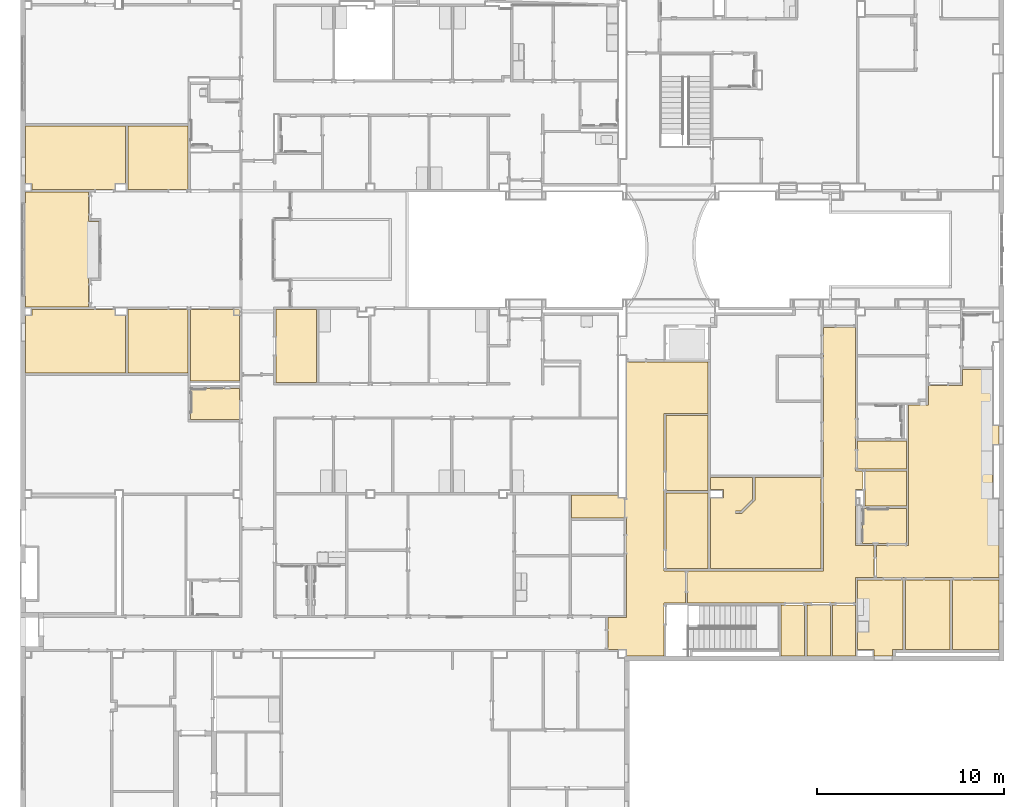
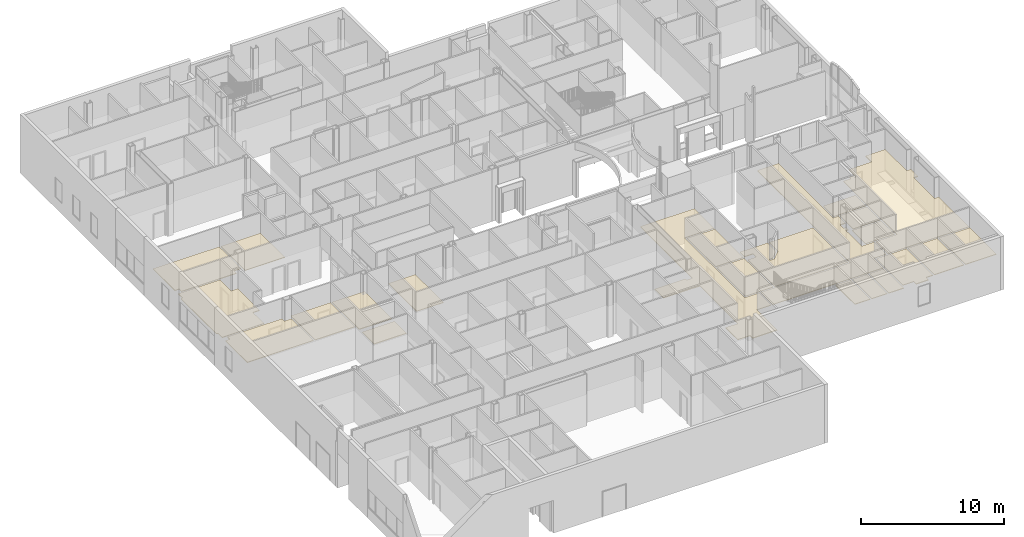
# One storey, part 50 of 87: 23 coverings.
"""IFC2X3 building model written with IfcOpenShell, lengths in metres."""

from ifc_helpers import new_model, entity, si_unit, converted_unit, origin, place, context, project, spatial, face_set, surface_model, material, layer, layer_set, layer_usage, element, save


model = new_model("IFC2X3")

# Units and contexts
model_context = context("Model", 3, precision=1e-09, world=origin())
plan_context = context("Plan", 3, precision=1e-09, world=origin())
ifc_project = project(units=[si_unit("LENGTHUNIT", "METRE"), si_unit("AREAUNIT", "SQUARE_METRE"), si_unit("VOLUMEUNIT", "CUBIC_METRE"), converted_unit("PLANEANGLEUNIT", "DEGREE", entity("IfcRatioMeasure", 0.01745329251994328), si_unit("PLANEANGLEUNIT", "RADIAN"), dimensions=[0, 0, 0, 0, 0, 0, 0]), si_unit("TIMEUNIT", "SECOND")], contexts=[model_context, plan_context])

# Site, building, storey
site_placement = place(None, origin())
site = spatial("IfcSite", under=ifc_project, at=site_placement, Name="Default", CompositionType="ELEMENT")
building_placement = place(site_placement, origin())
building = spatial("IfcBuilding", under=site, at=building_placement, CompositionType="ELEMENT")
storey_placement = place(building_placement, origin())
storey = spatial("IfcBuildingStorey", under=building, at=storey_placement, Name="First Floor", CompositionType="ELEMENT", Elevation=-3.531500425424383e-13)

# Coverings
ifc_material_1 = material(Name="Default")
ifc_layer_1 = layer(ifc_material_1, 0.03599999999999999)
ifc_material_2 = material(Name="Ceiling Tile 600 x 600")
ifc_layer_2 = layer(ifc_material_2, 0.016)
ifc_layer_set = layer_set([ifc_layer_1, ifc_layer_2], Name="Compound Ceiling:ACT 600 x 600mm Grid")
ifc_layer_usage_1 = layer_usage(ifc_layer_set, "AXIS3", "NEGATIVE", 0.0)
covering_1_placement = place(storey_placement, origin())
element("IfcCovering", 1, at=covering_1_placement, inside=storey, material=ifc_layer_usage_1, Name="Compound Ceiling:ACT 600 x 600mm Grid", ObjectType="Compound Ceiling:ACT 600 x 600mm Grid", PredefinedType="CEILING", context=model_context, shape_type="SurfaceModel", body=[
    surface_model("IfcFaceBasedSurfaceModel", [(-47.23000000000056, 34.90399999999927, 2.732), (-47.23000000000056, 35.23999999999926, 2.732), (-46.65400000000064, 35.23999999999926, 2.732), (-46.65400000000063, 38.30599999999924, 2.732), (-52.01300000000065, 38.30599999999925, 2.732), (-52.01300000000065, 35.23999999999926, 2.732), (-51.67000000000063, 35.23999999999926, 2.732), (-51.67000000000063, 34.90399999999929, 2.732), (-47.23000000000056, 34.90399999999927, 2.68), (-51.67000000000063, 34.90399999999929, 2.68), (-51.67000000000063, 35.23999999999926, 2.68), (-52.01300000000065, 35.23999999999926, 2.68), (-52.01300000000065, 38.30599999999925, 2.68), (-46.65400000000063, 38.30599999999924, 2.68), (-46.65400000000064, 35.23999999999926, 2.68), (-47.23000000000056, 35.23999999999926, 2.68)], [face_set([[[0, 1, 2, 3, 4, 5, 6, 7]], [[8, 9, 10, 11, 12, 13, 14, 15]], [[2, 1, 15, 14]], [[3, 2, 14, 13]], [[4, 12, 13, 3]], [[5, 11, 12, 4]], [[6, 5, 11, 10]], [[7, 9, 10, 6]], [[0, 7, 9, 8]], [[1, 0, 8, 15]]])]),
])
ifc_layer_usage_2 = layer_usage(ifc_layer_set, "AXIS3", "NEGATIVE", 0.0)
covering_2_placement = place(storey_placement, origin())
element("IfcCovering", 2, at=covering_2_placement, inside=storey, material=ifc_layer_usage_2, Name="Compound Ceiling:ACT 600 x 600mm Grid", ObjectType="Compound Ceiling:ACT 600 x 600mm Grid", PredefinedType="CEILING", context=model_context, shape_type="SurfaceModel", body=[
    surface_model("IfcFaceBasedSurfaceModel", [(-43.31000000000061, 38.30599999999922, 2.732), (-43.31000000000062, 34.90399999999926, 2.732), (-46.53000000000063, 34.90399999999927, 2.732), (-46.53000000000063, 38.30599999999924, 2.732), (-43.31000000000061, 38.30599999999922, 2.68), (-43.31000000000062, 34.90399999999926, 2.68), (-46.53000000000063, 34.90399999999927, 2.68), (-46.53000000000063, 38.30599999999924, 2.68)], [face_set([[[0, 1, 2, 3]], [[4, 5, 6, 7]], [[3, 7, 4, 0]], [[2, 6, 7, 3]], [[1, 2, 6, 5]], [[0, 1, 5, 4]]])]),
])
ifc_layer_usage_3 = layer_usage(ifc_layer_set, "AXIS3", "NEGATIVE", 0.0)
covering_3_placement = place(storey_placement, origin())
element("IfcCovering", 3, at=covering_3_placement, inside=storey, material=ifc_layer_usage_3, Name="Compound Ceiling:ACT 600 x 600mm Grid", ObjectType="Compound Ceiling:ACT 600 x 600mm Grid", PredefinedType="CEILING", context=model_context, shape_type="SurfaceModel", body=[
    surface_model("IfcFaceBasedSurfaceModel", [(-48.62500000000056, 28.6099999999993, 2.732), (-48.62500000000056, 30.16999999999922, 2.732), (-48.08499986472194, 30.16999999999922, 2.732), (-48.08499986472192, 33.21999999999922, 2.732), (-48.62500000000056, 33.21999999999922, 2.732), (-48.62500000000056, 34.77999999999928, 2.732), (-52.01300000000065, 34.77999999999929, 2.732), (-52.01300000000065, 34.19495592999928, 2.732), (-52.14650000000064, 34.19495592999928, 2.732), (-52.14650000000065, 29.19495592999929, 2.732), (-52.01300000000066, 29.19495592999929, 2.732), (-52.01300000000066, 28.60999999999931, 2.732), (-48.62500000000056, 28.6099999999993, 2.68), (-52.01300000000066, 28.60999999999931, 2.68), (-52.01300000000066, 29.19495592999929, 2.68), (-52.14650000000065, 29.19495592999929, 2.68), (-52.14650000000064, 34.19495592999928, 2.68), (-52.01300000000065, 34.19495592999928, 2.68), (-52.01300000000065, 34.77999999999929, 2.68), (-48.62500000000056, 34.77999999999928, 2.68), (-48.62500000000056, 33.21999999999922, 2.68), (-48.08499986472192, 33.21999999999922, 2.68), (-48.08499986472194, 30.16999999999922, 2.68), (-48.62500000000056, 30.16999999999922, 2.68)], [face_set([[[0, 1, 2, 3, 4, 5, 6, 7, 8, 9, 10, 11]], [[12, 13, 14, 15, 16, 17, 18, 19, 20, 21, 22, 23]], [[1, 0, 12, 23]], [[2, 1, 23, 22]], [[3, 2, 22, 21]], [[4, 20, 21, 3]], [[5, 4, 20, 19]], [[6, 18, 19, 5]], [[7, 17, 18, 6]], [[8, 16, 17, 7]], [[9, 15, 16, 8]], [[10, 9, 15, 14]], [[11, 13, 14, 10]], [[0, 11, 13, 12]]])]),
])
ifc_layer_usage_4 = layer_usage(ifc_layer_set, "AXIS3", "NEGATIVE", 0.0)
covering_4_placement = place(storey_placement, origin())
element("IfcCovering", 4, at=covering_4_placement, inside=storey, material=ifc_layer_usage_4, Name="Compound Ceiling:ACT 600 x 600mm Grid", ObjectType="Compound Ceiling:ACT 600 x 600mm Grid", PredefinedType="CEILING", context=model_context, shape_type="SurfaceModel", body=[
    surface_model("IfcFaceBasedSurfaceModel", [(-52.01300000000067, 25.08399999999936, 2.732), (-52.01300000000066, 28.14999999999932, 2.732), (-51.67000000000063, 28.14999999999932, 2.732), (-51.67000000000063, 28.48599999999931, 2.732), (-47.23000000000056, 28.48599999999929, 2.732), (-47.23000000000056, 28.14999999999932, 2.732), (-46.65400000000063, 28.14999999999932, 2.732), (-46.65400000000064, 25.08399999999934, 2.732), (-52.01300000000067, 25.08399999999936, 2.68), (-52.01300000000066, 28.14999999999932, 2.68), (-51.67000000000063, 28.14999999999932, 2.68), (-51.67000000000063, 28.48599999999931, 2.68), (-47.23000000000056, 28.48599999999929, 2.68), (-47.23000000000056, 28.14999999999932, 2.68), (-46.65400000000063, 28.14999999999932, 2.68), (-46.65400000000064, 25.08399999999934, 2.68)], [face_set([[[0, 1, 2, 3, 4, 5, 6, 7]], [[8, 9, 10, 11, 12, 13, 14, 15]], [[7, 0, 8, 15]], [[6, 7, 15, 14]], [[5, 13, 14, 6]], [[4, 5, 13, 12]], [[3, 11, 12, 4]], [[2, 10, 11, 3]], [[1, 9, 10, 2]], [[0, 8, 9, 1]]])]),
])
ifc_layer_usage_5 = layer_usage(ifc_layer_set, "AXIS3", "NEGATIVE", 0.0)
covering_5_placement = place(storey_placement, origin())
element("IfcCovering", 5, at=covering_5_placement, inside=storey, material=ifc_layer_usage_5, Name="Compound Ceiling:ACT 600 x 600mm Grid", ObjectType="Compound Ceiling:ACT 600 x 600mm Grid", PredefinedType="CEILING", context=model_context, shape_type="SurfaceModel", body=[
    surface_model("IfcFaceBasedSurfaceModel", [(-46.53000000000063, 25.08399999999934, 2.732), (-46.53000000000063, 28.48599999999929, 2.732), (-43.31000000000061, 28.48599999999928, 2.732), (-43.31000000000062, 25.08399999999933, 2.732), (-46.53000000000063, 25.08399999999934, 2.68), (-46.53000000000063, 28.48599999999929, 2.68), (-43.31000000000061, 28.48599999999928, 2.68), (-43.31000000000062, 25.08399999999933, 2.68)], [face_set([[[0, 1, 2, 3]], [[4, 5, 6, 7]], [[3, 0, 4, 7]], [[2, 3, 7, 6]], [[1, 5, 6, 2]], [[0, 4, 5, 1]]])]),
])
ifc_layer_usage_6 = layer_usage(ifc_layer_set, "AXIS3", "NEGATIVE", 0.0)
covering_6_placement = place(storey_placement, origin())
element("IfcCovering", 6, at=covering_6_placement, inside=storey, material=ifc_layer_usage_6, Name="Compound Ceiling:ACT 600 x 600mm Grid", ObjectType="Compound Ceiling:ACT 600 x 600mm Grid", PredefinedType="CEILING", context=model_context, shape_type="SurfaceModel", body=[
    surface_model("IfcFaceBasedSurfaceModel", [(-43.1860000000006, 28.48599999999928, 2.732), (-40.55400000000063, 28.48599999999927, 2.732), (-40.55400000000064, 24.65999999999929, 2.732), (-43.18600000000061, 24.6599999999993, 2.732), (-43.1860000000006, 28.48599999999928, 2.68), (-40.55400000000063, 28.48599999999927, 2.68), (-40.55400000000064, 24.65999999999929, 2.68), (-43.18600000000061, 24.6599999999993, 2.68)], [face_set([[[0, 1, 2, 3]], [[4, 5, 6, 7]], [[3, 7, 4, 0]], [[2, 3, 7, 6]], [[1, 2, 6, 5]], [[0, 4, 5, 1]]])]),
])
ifc_layer_usage_7 = layer_usage(ifc_layer_set, "AXIS3", "NEGATIVE", 0.0)
covering_7_placement = place(storey_placement, origin())
element("IfcCovering", 7, at=covering_7_placement, inside=storey, material=ifc_layer_usage_7, Name="Compound Ceiling:ACT 600 x 600mm Grid", ObjectType="Compound Ceiling:ACT 600 x 600mm Grid", PredefinedType="CEILING", context=model_context, shape_type="SurfaceModel", body=[
    surface_model("IfcFaceBasedSurfaceModel", [(-43.18600000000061, 24.25999999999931, 2.732), (-40.55400000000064, 24.2599999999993, 2.732), (-40.55400000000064, 22.58399999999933, 2.732), (-43.18600000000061, 22.58399999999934, 2.732), (-43.18600000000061, 24.25999999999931, 2.68), (-40.55400000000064, 24.2599999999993, 2.68), (-40.55400000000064, 22.58399999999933, 2.68), (-43.18600000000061, 22.58399999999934, 2.68)], [face_set([[[0, 1, 2, 3]], [[4, 5, 6, 7]], [[3, 7, 4, 0]], [[2, 3, 7, 6]], [[1, 2, 6, 5]], [[0, 4, 5, 1]]])]),
])
ifc_layer_usage_8 = layer_usage(ifc_layer_set, "AXIS3", "NEGATIVE", 0.0)
covering_8_placement = place(storey_placement, origin())
element("IfcCovering", 8, at=covering_8_placement, inside=storey, material=ifc_layer_usage_8, Name="Compound Ceiling:ACT 600 x 600mm Grid", ObjectType="Compound Ceiling:ACT 600 x 600mm Grid", PredefinedType="CEILING", context=model_context, shape_type="SurfaceModel", body=[
    surface_model("IfcFaceBasedSurfaceModel", [(-17.83000000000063, 12.77999999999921, 2.732), (-17.83000000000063, 9.926999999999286, 2.732), (-19.83000000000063, 9.926999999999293, 2.732), (-19.83000000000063, 10.2869999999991, 2.732), (-20.83000000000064, 10.28699999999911, 2.732), (-20.83000000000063, 11.97999999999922, 2.732), (-19.83000000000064, 11.97999999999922, 2.732), (-19.83000000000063, 17.31399999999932, 2.732), (-22.78600000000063, 17.31399999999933, 2.732), (-22.78600000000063, 18.55999999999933, 2.732), (-20.29000000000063, 18.55999999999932, 2.732), (-20.29000000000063, 18.37999999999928, 2.732), (-19.83000000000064, 18.37999999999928, 2.732), (-19.83000000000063, 25.68339999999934, 2.732), (-15.46000000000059, 25.68339999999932, 2.732), (-15.46000000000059, 22.92003069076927, 2.732), (-17.83000000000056, 22.92003069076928, 2.732), (-17.83000000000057, 14.48999999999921, 2.732), (-16.68000000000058, 14.4899999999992, 2.732), (-16.68000000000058, 12.7799999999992, 2.732), (-17.83000000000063, 12.77999999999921, 2.68), (-17.83000000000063, 9.926999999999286, 2.68), (-19.83000000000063, 9.926999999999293, 2.68), (-19.83000000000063, 10.2869999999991, 2.68), (-20.83000000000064, 10.28699999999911, 2.68), (-20.83000000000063, 11.97999999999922, 2.68), (-19.83000000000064, 11.97999999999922, 2.68), (-19.83000000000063, 17.31399999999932, 2.68), (-22.78600000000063, 17.31399999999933, 2.68), (-22.78600000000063, 18.55999999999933, 2.68), (-20.29000000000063, 18.55999999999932, 2.68), (-20.29000000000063, 18.37999999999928, 2.68), (-19.83000000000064, 18.37999999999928, 2.68), (-19.83000000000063, 25.68339999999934, 2.68), (-15.46000000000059, 25.68339999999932, 2.68), (-15.46000000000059, 22.92003069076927, 2.68), (-17.83000000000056, 22.92003069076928, 2.68), (-17.83000000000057, 14.48999999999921, 2.68), (-16.68000000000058, 14.4899999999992, 2.68), (-16.68000000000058, 12.7799999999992, 2.68)], [face_set([[[0, 1, 2, 3, 4, 5, 6, 7, 8, 9, 10, 11, 12, 13, 14, 15, 16, 17, 18, 19]], [[20, 21, 22, 23, 24, 25, 26, 27, 28, 29, 30, 31, 32, 33, 34, 35, 36, 37, 38, 39]], [[19, 0, 20, 39]], [[18, 19, 39, 38]], [[17, 37, 38, 18]], [[16, 17, 37, 36]], [[15, 16, 36, 35]], [[14, 15, 35, 34]], [[13, 33, 34, 14]], [[12, 32, 33, 13]], [[11, 31, 32, 12]], [[10, 11, 31, 30]], [[9, 29, 30, 10]], [[8, 28, 29, 9]], [[7, 8, 28, 27]], [[6, 26, 27, 7]], [[5, 25, 26, 6]], [[4, 24, 25, 5]], [[3, 4, 24, 23]], [[2, 22, 23, 3]], [[1, 2, 22, 21]], [[0, 1, 21, 20]]])]),
])
ifc_layer_usage_9 = layer_usage(ifc_layer_set, "AXIS3", "NEGATIVE", 0.0)
covering_9_placement = place(storey_placement, origin())
element("IfcCovering", 9, at=covering_9_placement, inside=storey, material=ifc_layer_usage_9, Name="Compound Ceiling:ACT 600 x 600mm Grid", ObjectType="Compound Ceiling:ACT 600 x 600mm Grid", PredefinedType="CEILING", context=model_context, shape_type="SurfaceModel", body=[
    surface_model("IfcFaceBasedSurfaceModel", [(-38.59600000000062, 28.48599999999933, 2.732), (-36.43000000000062, 28.48599999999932, 2.732), (-36.43000000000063, 24.56399999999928, 2.732), (-38.59600000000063, 24.56399999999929, 2.732), (-38.59600000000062, 28.48599999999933, 2.68), (-36.43000000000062, 28.48599999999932, 2.68), (-36.43000000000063, 24.56399999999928, 2.68), (-38.59600000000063, 24.56399999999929, 2.68)], [face_set([[[0, 1, 2, 3]], [[4, 5, 6, 7]], [[3, 7, 4, 0]], [[2, 3, 7, 6]], [[1, 2, 6, 5]], [[0, 4, 5, 1]]])]),
])
ifc_layer_usage_10 = layer_usage(ifc_layer_set, "AXIS3", "NEGATIVE", 0.0)
covering_10_placement = place(storey_placement, origin())
element("IfcCovering", 10, at=covering_10_placement, inside=storey, material=ifc_layer_usage_10, Name="Compound Ceiling:ACT 600 x 600mm Grid", ObjectType="Compound Ceiling:ACT 600 x 600mm Grid", PredefinedType="CEILING", context=model_context, shape_type="SurfaceModel", body=[
    surface_model("IfcFaceBasedSurfaceModel", [(-17.70600000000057, 18.7840306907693, 2.732), (-17.70600000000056, 22.79603069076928, 2.732), (-15.46000000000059, 22.79603069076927, 2.732), (-15.4600000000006, 18.7840306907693, 2.732), (-17.70600000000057, 18.7840306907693, 2.68), (-17.70600000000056, 22.79603069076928, 2.68), (-15.46000000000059, 22.79603069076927, 2.68), (-15.4600000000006, 18.7840306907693, 2.68)], [face_set([[[0, 1, 2, 3]], [[4, 5, 6, 7]], [[3, 0, 4, 7]], [[2, 3, 7, 6]], [[1, 5, 6, 2]], [[0, 4, 5, 1]]])]),
])
ifc_layer_usage_11 = layer_usage(ifc_layer_set, "AXIS3", "NEGATIVE", 0.0)
covering_11_placement = place(storey_placement, origin())
element("IfcCovering", 11, at=covering_11_placement, inside=storey, material=ifc_layer_usage_11, Name="Compound Ceiling:ACT 600 x 600mm Grid", ObjectType="Compound Ceiling:ACT 600 x 600mm Grid", PredefinedType="CEILING", context=model_context, shape_type="SurfaceModel", body=[
    surface_model("IfcFaceBasedSurfaceModel", [(-15.4600000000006, 18.66003069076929, 2.732), (-15.46000000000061, 14.6139999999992, 2.732), (-17.70600000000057, 14.61399999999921, 2.732), (-17.70600000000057, 18.6600306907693, 2.732), (-15.4600000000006, 18.66003069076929, 2.68), (-15.46000000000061, 14.6139999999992, 2.68), (-17.70600000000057, 14.61399999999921, 2.68), (-17.70600000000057, 18.6600306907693, 2.68)], [face_set([[[0, 1, 2, 3]], [[4, 5, 6, 7]], [[3, 7, 4, 0]], [[2, 6, 7, 3]], [[1, 2, 6, 5]], [[0, 1, 5, 4]]])]),
])
ifc_layer_usage_12 = layer_usage(ifc_layer_set, "AXIS3", "NEGATIVE", 0.0)
covering_12_placement = place(storey_placement, origin())
element("IfcCovering", 12, at=covering_12_placement, inside=storey, material=ifc_layer_usage_12, Name="Compound Ceiling:ACT 600 x 600mm Grid", ObjectType="Compound Ceiling:ACT 600 x 600mm Grid", PredefinedType="CEILING", context=model_context, shape_type="SurfaceModel", body=[
    surface_model("IfcFaceBasedSurfaceModel", [(-9.4139750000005, 14.61399999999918, 2.732), (-15.3360000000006, 14.6139999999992, 2.732), (-15.3360000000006, 18.37999999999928, 2.732), (-14.64997500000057, 18.37999999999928, 2.732), (-14.64997500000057, 18.83999999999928, 2.732), (-15.3360000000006, 18.83999999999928, 2.732), (-15.3360000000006, 19.48599999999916, 2.732), (-13.08900950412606, 19.48599999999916, 2.732), (-13.08900950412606, 18.31408326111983, 2.732), (-13.71609547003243, 17.68699729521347, 2.732), (-14.00497500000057, 17.68699729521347, 2.732), (-14.00497500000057, 17.56299729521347, 2.732), (-13.66473298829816, 17.56299729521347, 2.732), (-12.96500950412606, 18.26272077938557, 2.732), (-12.96500950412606, 19.48599999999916, 2.732), (-9.413975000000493, 19.48599999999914, 2.732), (-9.4139750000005, 14.61399999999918, 2.68), (-15.3360000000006, 14.6139999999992, 2.68), (-15.3360000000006, 18.37999999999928, 2.68), (-14.64997500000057, 18.37999999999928, 2.68), (-14.64997500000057, 18.83999999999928, 2.68), (-15.3360000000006, 18.83999999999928, 2.68), (-15.3360000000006, 19.48599999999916, 2.68), (-13.08900950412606, 19.48599999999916, 2.68), (-13.08900950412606, 18.31408326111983, 2.68), (-13.71609547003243, 17.68699729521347, 2.68), (-14.00497500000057, 17.68699729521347, 2.68), (-14.00497500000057, 17.56299729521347, 2.68), (-13.66473298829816, 17.56299729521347, 2.68), (-12.96500950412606, 18.26272077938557, 2.68), (-12.96500950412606, 19.48599999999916, 2.68), (-9.413975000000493, 19.48599999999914, 2.68)], [face_set([[[0, 1, 2, 3, 4, 5, 6, 7, 8, 9, 10, 11, 12, 13, 14, 15]], [[16, 17, 18, 19, 20, 21, 22, 23, 24, 25, 26, 27, 28, 29, 30, 31]], [[15, 0, 16, 31]], [[14, 30, 31, 15]], [[13, 29, 30, 14]], [[12, 28, 29, 13]], [[11, 27, 28, 12]], [[10, 11, 27, 26]], [[9, 10, 26, 25]], [[8, 9, 25, 24]], [[7, 8, 24, 23]], [[6, 22, 23, 7]], [[5, 21, 22, 6]], [[4, 5, 21, 20]], [[3, 19, 20, 4]], [[2, 18, 19, 3]], [[1, 17, 18, 2]], [[0, 1, 17, 16]]])]),
])
ifc_layer_usage_13 = layer_usage(ifc_layer_set, "AXIS3", "NEGATIVE", 0.0)
covering_13_placement = place(storey_placement, origin())
element("IfcCovering", 13, at=covering_13_placement, inside=storey, material=ifc_layer_usage_13, Name="Compound Ceiling:ACT 600 x 600mm Grid", ObjectType="Compound Ceiling:ACT 600 x 600mm Grid", PredefinedType="CEILING", context=model_context, shape_type="SurfaceModel", body=[
    surface_model("IfcFaceBasedSurfaceModel", [(-9.289975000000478, 27.51999999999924, 2.732), (-9.2899750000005, 14.48999999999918, 2.732), (-16.55600000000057, 14.4899999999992, 2.732), (-16.55600000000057, 12.7799999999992, 2.732), (-7.579975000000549, 12.77999999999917, 2.732), (-7.579975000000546, 14.12999999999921, 2.732), (-6.579975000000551, 14.12999999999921, 2.732), (-6.579975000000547, 15.83999999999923, 2.732), (-7.579975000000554, 15.83999999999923, 2.732), (-7.57997500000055, 18.0299999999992, 2.732), (-7.382475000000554, 18.0299999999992, 2.732), (-7.382475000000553, 18.37999999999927, 2.732), (-7.579975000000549, 18.37999999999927, 2.732), (-7.579975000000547, 18.83999999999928, 2.732), (-7.174000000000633, 18.83999999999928, 2.732), (-7.174000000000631, 19.82999999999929, 2.732), (-7.579975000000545, 19.82999999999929, 2.732), (-7.579975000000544, 27.51999999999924, 2.732), (-9.289975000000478, 27.51999999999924, 2.68), (-7.579975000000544, 27.51999999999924, 2.68), (-7.579975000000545, 19.82999999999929, 2.68), (-7.174000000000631, 19.82999999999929, 2.68), (-7.174000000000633, 18.83999999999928, 2.68), (-7.579975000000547, 18.83999999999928, 2.68), (-7.579975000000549, 18.37999999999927, 2.68), (-7.382475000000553, 18.37999999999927, 2.68), (-7.382475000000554, 18.0299999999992, 2.68), (-7.57997500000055, 18.0299999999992, 2.68), (-7.579975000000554, 15.83999999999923, 2.68), (-6.579975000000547, 15.83999999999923, 2.68), (-6.579975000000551, 14.12999999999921, 2.68), (-7.579975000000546, 14.12999999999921, 2.68), (-7.579975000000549, 12.77999999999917, 2.68), (-16.55600000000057, 12.7799999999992, 2.68), (-16.55600000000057, 14.4899999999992, 2.68), (-9.2899750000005, 14.48999999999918, 2.68)], [face_set([[[0, 1, 2, 3, 4, 5, 6, 7, 8, 9, 10, 11, 12, 13, 14, 15, 16, 17]], [[18, 19, 20, 21, 22, 23, 24, 25, 26, 27, 28, 29, 30, 31, 32, 33, 34, 35]], [[1, 35, 18, 0]], [[2, 34, 35, 1]], [[3, 33, 34, 2]], [[4, 3, 33, 32]], [[5, 4, 32, 31]], [[6, 5, 31, 30]], [[7, 6, 30, 29]], [[8, 28, 29, 7]], [[9, 8, 28, 27]], [[10, 9, 27, 26]], [[11, 10, 26, 25]], [[12, 24, 25, 11]], [[13, 12, 24, 23]], [[14, 13, 23, 22]], [[15, 14, 22, 21]], [[16, 20, 21, 15]], [[17, 16, 20, 19]], [[0, 18, 19, 17]]])]),
])
ifc_layer_usage_14 = layer_usage(ifc_layer_set, "AXIS3", "NEGATIVE", 0.0)
covering_14_placement = place(storey_placement, origin())
element("IfcCovering", 14, at=covering_14_placement, inside=storey, material=ifc_layer_usage_14, Name="Compound Ceiling:ACT 600 x 600mm Grid", ObjectType="Compound Ceiling:ACT 600 x 600mm Grid", PredefinedType="CEILING", context=model_context, shape_type="SurfaceModel", body=[
    surface_model("IfcFaceBasedSurfaceModel", [(-10.29400000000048, 9.926999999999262, 2.732), (-11.54999985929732, 9.926999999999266, 2.732), (-11.54999985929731, 12.65599999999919, 2.732), (-10.29400000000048, 12.65599999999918, 2.732), (-10.29400000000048, 9.926999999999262, 2.68), (-11.54999985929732, 9.926999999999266, 2.68), (-11.54999985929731, 12.65599999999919, 2.68), (-10.29400000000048, 12.65599999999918, 2.68)], [face_set([[[0, 1, 2, 3]], [[4, 5, 6, 7]], [[3, 0, 4, 7]], [[2, 6, 7, 3]], [[1, 5, 6, 2]], [[0, 1, 5, 4]]])]),
])
ifc_layer_usage_15 = layer_usage(ifc_layer_set, "AXIS3", "NEGATIVE", 0.0)
covering_15_placement = place(storey_placement, origin())
element("IfcCovering", 15, at=covering_15_placement, inside=storey, material=ifc_layer_usage_15, Name="Compound Ceiling:ACT 600 x 600mm Grid", ObjectType="Compound Ceiling:ACT 600 x 600mm Grid", PredefinedType="CEILING", context=model_context, shape_type="SurfaceModel", body=[
    surface_model("IfcFaceBasedSurfaceModel", [(-8.91400000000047, 9.926999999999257, 2.732), (-10.17000000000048, 9.926999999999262, 2.732), (-10.17000000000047, 12.65599999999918, 2.732), (-8.914000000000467, 12.65599999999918, 2.732), (-8.91400000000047, 9.926999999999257, 2.68), (-10.17000000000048, 9.926999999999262, 2.68), (-10.17000000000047, 12.65599999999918, 2.68), (-8.914000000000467, 12.65599999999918, 2.68)], [face_set([[[0, 1, 2, 3]], [[4, 5, 6, 7]], [[3, 0, 4, 7]], [[2, 6, 7, 3]], [[1, 5, 6, 2]], [[0, 1, 5, 4]]])]),
])
ifc_layer_usage_16 = layer_usage(ifc_layer_set, "AXIS3", "NEGATIVE", 0.0)
covering_16_placement = place(storey_placement, origin())
element("IfcCovering", 16, at=covering_16_placement, inside=storey, material=ifc_layer_usage_16, Name="Compound Ceiling:ACT 600 x 600mm Grid", ObjectType="Compound Ceiling:ACT 600 x 600mm Grid", PredefinedType="CEILING", context=model_context, shape_type="SurfaceModel", body=[
    surface_model("IfcFaceBasedSurfaceModel", [(-7.579975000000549, 12.65599999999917, 2.732), (-7.579975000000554, 9.926999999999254, 2.732), (-8.79000000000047, 9.926999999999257, 2.732), (-8.790000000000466, 12.65599999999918, 2.732), (-7.579975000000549, 12.65599999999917, 2.68), (-7.579975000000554, 9.926999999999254, 2.68), (-8.79000000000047, 9.926999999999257, 2.68), (-8.790000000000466, 12.65599999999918, 2.68)], [face_set([[[0, 1, 2, 3]], [[4, 5, 6, 7]], [[3, 7, 4, 0]], [[2, 6, 7, 3]], [[1, 2, 6, 5]], [[0, 1, 5, 4]]])]),
])
ifc_layer_usage_17 = layer_usage(ifc_layer_set, "AXIS3", "NEGATIVE", 0.0)
covering_17_placement = place(storey_placement, origin())
element("IfcCovering", 17, at=covering_17_placement, inside=storey, material=ifc_layer_usage_17, Name="Compound Ceiling:ACT 600 x 600mm Grid", ObjectType="Compound Ceiling:ACT 600 x 600mm Grid", PredefinedType="CEILING", context=model_context, shape_type="SurfaceModel", body=[
    surface_model("IfcFaceBasedSurfaceModel", [(-5.583303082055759, 10.26999999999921, 2.732), (-5.58330308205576, 9.926999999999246, 2.732), (-6.583303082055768, 9.926999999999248, 2.732), (-6.583303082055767, 10.26999999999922, 2.732), (-7.455975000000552, 10.26999999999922, 2.732), (-7.455975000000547, 14.00599999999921, 2.732), (-5.029975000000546, 14.0059999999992, 2.732), (-5.029975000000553, 10.26999999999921, 2.732), (-5.583303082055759, 10.26999999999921, 2.68), (-5.58330308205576, 9.926999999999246, 2.68), (-6.583303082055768, 9.926999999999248, 2.68), (-6.583303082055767, 10.26999999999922, 2.68), (-7.455975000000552, 10.26999999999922, 2.68), (-7.455975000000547, 14.00599999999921, 2.68), (-5.029975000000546, 14.0059999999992, 2.68), (-5.029975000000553, 10.26999999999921, 2.68)], [face_set([[[0, 1, 2, 3, 4, 5, 6, 7]], [[8, 9, 10, 11, 12, 13, 14, 15]], [[7, 0, 8, 15]], [[6, 7, 15, 14]], [[5, 13, 14, 6]], [[4, 12, 13, 5]], [[3, 4, 12, 11]], [[2, 10, 11, 3]], [[1, 2, 10, 9]], [[0, 1, 9, 8]]])]),
])
ifc_layer_usage_18 = layer_usage(ifc_layer_set, "AXIS3", "NEGATIVE", 0.0)
covering_18_placement = place(storey_placement, origin())
element("IfcCovering", 18, at=covering_18_placement, inside=storey, material=ifc_layer_usage_18, Name="Compound Ceiling:ACT 600 x 600mm Grid", ObjectType="Compound Ceiling:ACT 600 x 600mm Grid", PredefinedType="CEILING", context=model_context, shape_type="SurfaceModel", body=[
    surface_model("IfcFaceBasedSurfaceModel", [(-4.905975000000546, 14.0059999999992, 2.732), (-2.513975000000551, 14.0059999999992, 2.732), (-2.513975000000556, 10.2699999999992, 2.732), (-4.905975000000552, 10.26999999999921, 2.732), (-4.905975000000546, 14.0059999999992, 2.68), (-2.513975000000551, 14.0059999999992, 2.68), (-2.513975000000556, 10.2699999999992, 2.68), (-4.905975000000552, 10.26999999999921, 2.68)], [face_set([[[0, 1, 2, 3]], [[4, 5, 6, 7]], [[3, 7, 4, 0]], [[2, 3, 7, 6]], [[1, 2, 6, 5]], [[0, 4, 5, 1]]])]),
])
ifc_layer_usage_19 = layer_usage(ifc_layer_set, "AXIS3", "NEGATIVE", 0.0)
covering_19_placement = place(storey_placement, origin())
element("IfcCovering", 19, at=covering_19_placement, inside=storey, material=ifc_layer_usage_19, Name="Compound Ceiling:ACT 600 x 600mm Grid", ObjectType="Compound Ceiling:ACT 600 x 600mm Grid", PredefinedType="CEILING", context=model_context, shape_type="SurfaceModel", body=[
    surface_model("IfcFaceBasedSurfaceModel", [(-2.389975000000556, 10.2699999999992, 2.732), (-2.38997500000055, 14.0059999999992, 2.732), (0.112999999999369, 14.00599999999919, 2.732), (0.1129999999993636, 10.2699999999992, 2.732), (-2.389975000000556, 10.2699999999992, 2.68), (-2.38997500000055, 14.0059999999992, 2.68), (0.112999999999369, 14.00599999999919, 2.68), (0.1129999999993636, 10.2699999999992, 2.68)], [face_set([[[0, 1, 2, 3]], [[4, 5, 6, 7]], [[3, 0, 4, 7]], [[2, 3, 7, 6]], [[1, 5, 6, 2]], [[0, 4, 5, 1]]])]),
])
ifc_layer_usage_20 = layer_usage(ifc_layer_set, "AXIS3", "NEGATIVE", 0.0)
covering_20_placement = place(storey_placement, origin())
element("IfcCovering", 20, at=covering_20_placement, inside=storey, material=ifc_layer_usage_20, Name="Compound Ceiling:ACT 600 x 600mm Grid", ObjectType="Compound Ceiling:ACT 600 x 600mm Grid", PredefinedType="CEILING", context=model_context, shape_type="SurfaceModel", body=[
    surface_model("IfcFaceBasedSurfaceModel", [(-0.2300000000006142, 25.26599999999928, 2.732), (-0.2300000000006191, 22.25999999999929, 2.732), (0.1129999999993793, 22.25999999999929, 2.732), (0.1129999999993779, 21.25999999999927, 2.732), (-0.2300000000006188, 21.25999999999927, 2.732), (-0.2300000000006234, 18.33799999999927, 2.732), (0.1129999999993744, 18.33799999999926, 2.732), (0.112999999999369, 14.12999999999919, 2.732), (-6.455975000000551, 14.12999999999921, 2.732), (-6.455975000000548, 15.83999999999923, 2.732), (-4.719975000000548, 15.83999999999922, 2.732), (-4.719975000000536, 23.35999999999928, 2.732), (-4.109975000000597, 23.35999999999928, 2.732), (-4.109975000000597, 23.55749999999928, 2.732), (-3.793975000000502, 23.55749999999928, 2.732), (-3.793975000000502, 23.35999999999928, 2.732), (-3.669975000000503, 23.35999999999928, 2.732), (-3.669975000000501, 24.4159999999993, 2.732), (-1.83597500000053, 24.41599999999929, 2.732), (-1.835975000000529, 25.26599999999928, 2.732), (-0.2300000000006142, 25.26599999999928, 2.68), (-1.835975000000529, 25.26599999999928, 2.68), (-1.83597500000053, 24.41599999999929, 2.68), (-3.669975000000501, 24.4159999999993, 2.68), (-3.669975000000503, 23.35999999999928, 2.68), (-3.793975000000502, 23.35999999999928, 2.68), (-3.793975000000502, 23.55749999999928, 2.68), (-4.109975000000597, 23.55749999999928, 2.68), (-4.109975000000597, 23.35999999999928, 2.68), (-4.719975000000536, 23.35999999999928, 2.68), (-4.719975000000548, 15.83999999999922, 2.68), (-6.455975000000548, 15.83999999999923, 2.68), (-6.455975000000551, 14.12999999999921, 2.68), (0.112999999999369, 14.12999999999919, 2.68), (0.1129999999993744, 18.33799999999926, 2.68), (-0.2300000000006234, 18.33799999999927, 2.68), (-0.2300000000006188, 21.25999999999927, 2.68), (0.1129999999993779, 21.25999999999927, 2.68), (0.1129999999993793, 22.25999999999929, 2.68), (-0.2300000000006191, 22.25999999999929, 2.68)], [face_set([[[0, 1, 2, 3, 4, 5, 6, 7, 8, 9, 10, 11, 12, 13, 14, 15, 16, 17, 18, 19]], [[20, 21, 22, 23, 24, 25, 26, 27, 28, 29, 30, 31, 32, 33, 34, 35, 36, 37, 38, 39]], [[19, 21, 20, 0]], [[18, 22, 21, 19]], [[17, 23, 22, 18]], [[16, 24, 23, 17]], [[15, 25, 24, 16]], [[14, 15, 25, 26]], [[13, 27, 26, 14]], [[12, 28, 27, 13]], [[11, 29, 28, 12]], [[10, 30, 29, 11]], [[9, 31, 30, 10]], [[8, 32, 31, 9]], [[7, 8, 32, 33]], [[6, 7, 33, 34]], [[5, 35, 34, 6]], [[4, 5, 35, 36]], [[3, 4, 36, 37]], [[2, 3, 37, 38]], [[1, 39, 38, 2]], [[0, 1, 39, 20]]])]),
])
ifc_layer_usage_21 = layer_usage(ifc_layer_set, "AXIS3", "NEGATIVE", 0.0)
covering_21_placement = place(storey_placement, origin())
element("IfcCovering", 21, at=covering_21_placement, inside=storey, material=ifc_layer_usage_21, Name="Compound Ceiling:ACT 600 x 600mm Grid", ObjectType="Compound Ceiling:ACT 600 x 600mm Grid", PredefinedType="CEILING", context=model_context, shape_type="SurfaceModel", body=[
    surface_model("IfcFaceBasedSurfaceModel", [(-4.843975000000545, 17.83599999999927, 2.732), (-4.843975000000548, 15.96399999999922, 2.732), (-7.199975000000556, 15.96399999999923, 2.732), (-7.199975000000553, 17.83599999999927, 2.732), (-4.843975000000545, 17.83599999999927, 2.68), (-4.843975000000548, 15.96399999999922, 2.68), (-7.199975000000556, 15.96399999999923, 2.68), (-7.199975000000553, 17.83599999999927, 2.68)], [face_set([[[0, 1, 2, 3]], [[4, 5, 6, 7]], [[3, 7, 4, 0]], [[2, 6, 7, 3]], [[1, 2, 6, 5]], [[0, 1, 5, 4]]])]),
])
ifc_layer_usage_22 = layer_usage(ifc_layer_set, "AXIS3", "NEGATIVE", 0.0)
covering_22_placement = place(storey_placement, origin())
element("IfcCovering", 22, at=covering_22_placement, inside=storey, material=ifc_layer_usage_22, Name="Compound Ceiling:ACT 600 x 600mm Grid", ObjectType="Compound Ceiling:ACT 600 x 600mm Grid", PredefinedType="CEILING", context=model_context, shape_type="SurfaceModel", body=[
    surface_model("IfcFaceBasedSurfaceModel", [(-7.050000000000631, 19.82999999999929, 2.732), (-4.843975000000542, 19.82999999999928, 2.732), (-4.843975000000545, 17.95999999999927, 2.732), (-7.050000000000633, 17.95999999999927, 2.732), (-7.050000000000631, 19.82999999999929, 2.68), (-4.843975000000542, 19.82999999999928, 2.68), (-4.843975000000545, 17.95999999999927, 2.68), (-7.050000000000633, 17.95999999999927, 2.68)], [face_set([[[0, 1, 2, 3]], [[4, 5, 6, 7]], [[3, 7, 4, 0]], [[2, 3, 7, 6]], [[1, 2, 6, 5]], [[0, 4, 5, 1]]])]),
])
ifc_layer_usage_23 = layer_usage(ifc_layer_set, "AXIS3", "NEGATIVE", 0.0)
covering_23_placement = place(storey_placement, origin())
element("IfcCovering", 23, at=covering_23_placement, inside=storey, material=ifc_layer_usage_23, Name="Compound Ceiling:ACT 600 x 600mm Grid", ObjectType="Compound Ceiling:ACT 600 x 600mm Grid", PredefinedType="CEILING", context=model_context, shape_type="SurfaceModel", body=[
    surface_model("IfcFaceBasedSurfaceModel", [(-7.455975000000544, 19.95399999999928, 2.732), (-7.455975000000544, 21.44599999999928, 2.732), (-4.84397500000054, 21.44599999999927, 2.732), (-4.843975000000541, 19.95399999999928, 2.732), (-7.455975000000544, 19.95399999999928, 2.68), (-7.455975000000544, 21.44599999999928, 2.68), (-4.84397500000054, 21.44599999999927, 2.68), (-4.843975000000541, 19.95399999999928, 2.68)], [face_set([[[0, 1, 2, 3]], [[4, 5, 6, 7]], [[3, 0, 4, 7]], [[2, 3, 7, 6]], [[1, 5, 6, 2]], [[0, 4, 5, 1]]])]),
])

save(model, "model.ifc")
